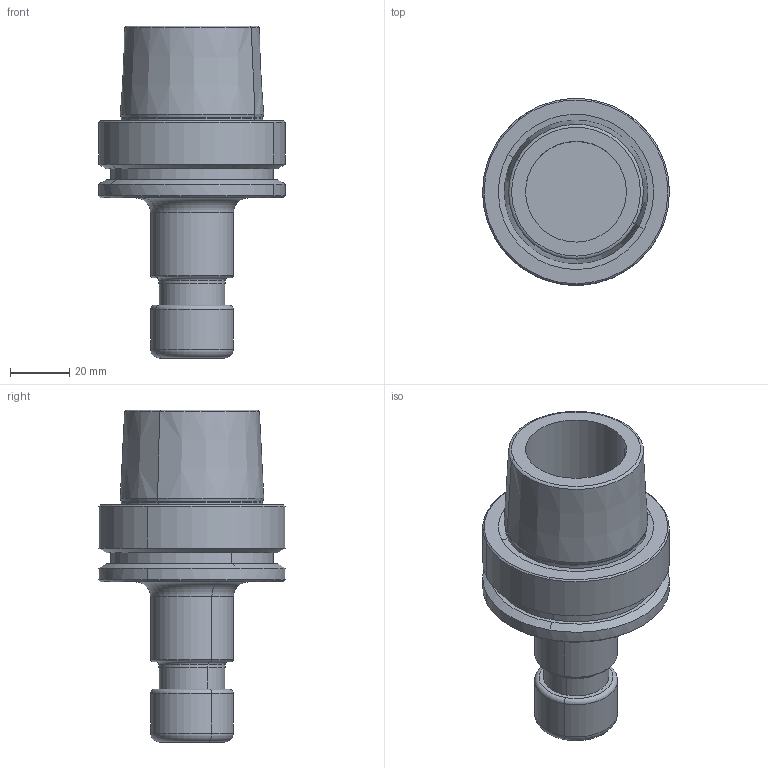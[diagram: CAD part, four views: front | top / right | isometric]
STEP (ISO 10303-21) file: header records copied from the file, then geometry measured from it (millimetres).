
FILE_DESCRIPTION(('CATIA V5 STEP','CAx-IF Rec.Pracs.--- Model Styling and Organization---1.2---2011-12-15'),'2;1');
FILE_NAME('\\nas01\drv1\utils\eitdev\rte\eit\transmagicconvert\db\out\635935587286495555\4504504-D-B-L.stp','2016-03-14T11:25:42+00:00',('none'),('none'),'CATIA Version 5 Release 21 SP 5 (IN-10)','CATIA V5 STEP AP214','none');
FILE_SCHEMA(('AUTOMOTIVE_DESIGN { 1 0 10303 214 1 1 1 1 }'));
Length unit declared in the file: millimetre
Products named in the file (1): HSK E 63 ER16X 80
Bounding box: 63 x 62.98 x 112 mm (x, y, z)
Volume: 121112.8 mm3; surface area: 27304.9 mm2
Topology: 1 solids, 1 shells, 68 faces, 142 edges, 83 vertices
Faces by surface type: cylinder 24, cone 20, torus 14, plane 10
Entity records: 1602 total; most frequent: ORIENTED_EDGE 280, CARTESIAN_POINT 265, DIRECTION 222, EDGE_CURVE 140, AXIS2_PLACEMENT_3D 138, CIRCLE 96, VERTEX_POINT 83, EDGE_LOOP 77
